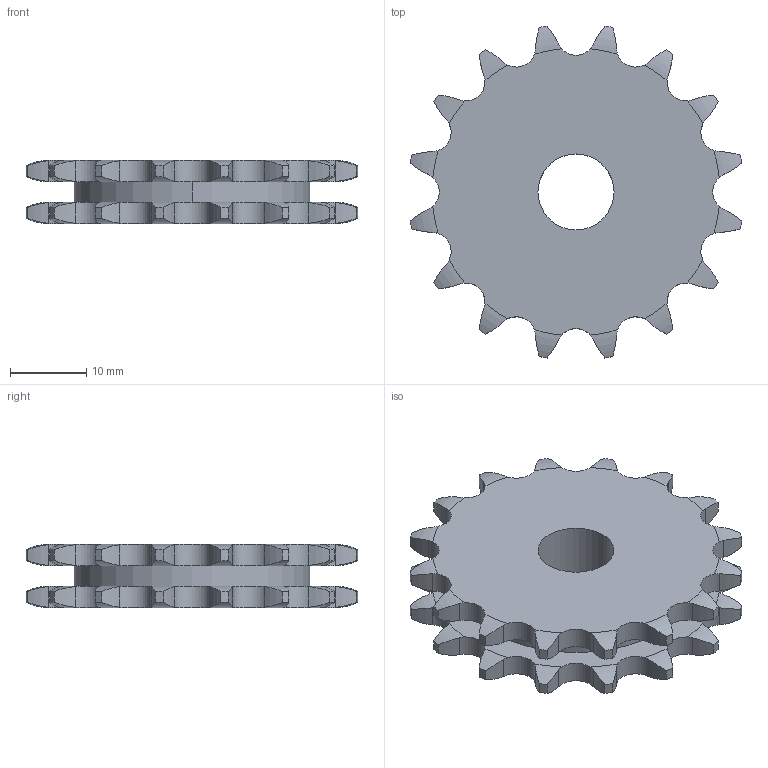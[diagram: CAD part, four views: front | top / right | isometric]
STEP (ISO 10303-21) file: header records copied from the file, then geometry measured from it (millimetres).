
FILE_DESCRIPTION((''),'2;1');
FILE_NAME('500-082-0016_PRT','2021-02-12T',('Brieden'),('Brieden'),'PRO/ENGINEER BY PARAMETRIC TECHNOLOGY CORPORATION, 2010160','PRO/ENGINEER BY PARAMETRIC TECHNOLOGY CORPORATION, 2010160','');
FILE_SCHEMA(('AUTOMOTIVE_DESIGN { 1 0 10303 214 1 1 1 1 }'));
Length unit declared in the file: millimetre
Products named in the file (1): 500-082-0016_PRT
Bounding box: 43.64 x 43.64 x 8.3 mm (x, y, z)
Volume: 8084.4 mm3; surface area: 4676.8 mm2
Topology: 1 solids, 1 shells, 200 faces, 588 edges, 392 vertices
Faces by surface type: cylinder 132, torus 64, plane 4
Entity records: 9491 total; most frequent: CARTESIAN_POINT 2636, ORIENTED_EDGE 1176, DIRECTION 932, PRESENTATION_STYLE_ASSIGNMENT 589, STYLED_ITEM 589, CURVE_STYLE 588, EDGE_CURVE 588, AXIS2_PLACEMENT_3D 400
